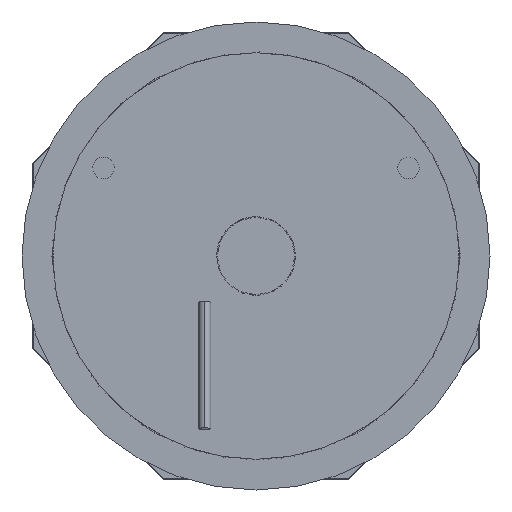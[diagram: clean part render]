
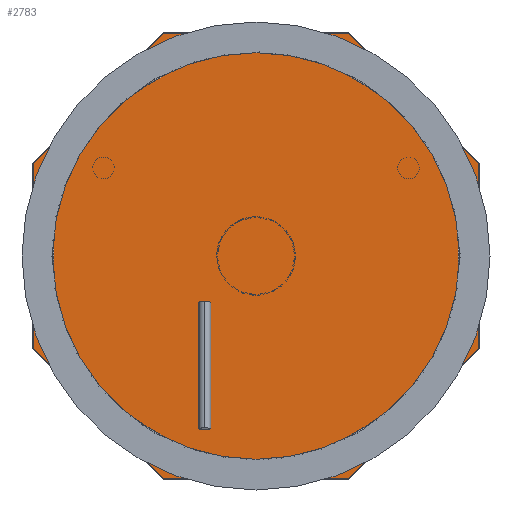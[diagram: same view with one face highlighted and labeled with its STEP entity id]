
A CAD part, front view. The second image highlights one B-rep face of the part: STEP entity #2783.
In plain terms, the highlighted planar face has unit normal (0, -1, 0).
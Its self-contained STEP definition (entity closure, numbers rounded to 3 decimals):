
#2174=DIRECTION('',(0.707,0.,-0.707));
#2175=VECTOR('',#2174,359.952);
#2176=CARTESIAN_POINT('',(-434.5,70.,-179.976));
#2177=LINE('',#2176,#2175);
#2182=DIRECTION('',(0.,0.,-1.));
#2183=VECTOR('',#2182,359.952);
#2184=CARTESIAN_POINT('',(-434.5,70.,179.976));
#2185=LINE('',#2184,#2183);
#2190=DIRECTION('',(-0.707,0.,-0.707));
#2191=VECTOR('',#2190,359.952);
#2192=CARTESIAN_POINT('',(-179.976,70.,434.5));
#2193=LINE('',#2192,#2191);
#2198=DIRECTION('',(-1.,0.,0.));
#2199=VECTOR('',#2198,359.952);
#2200=CARTESIAN_POINT('',(179.976,70.,434.5));
#2201=LINE('',#2200,#2199);
#2206=DIRECTION('',(-0.707,0.,0.707));
#2207=VECTOR('',#2206,359.952);
#2208=CARTESIAN_POINT('',(434.5,70.,179.976));
#2209=LINE('',#2208,#2207);
#2214=DIRECTION('',(0.,0.,1.));
#2215=VECTOR('',#2214,359.952);
#2216=CARTESIAN_POINT('',(434.5,70.,-179.976));
#2217=LINE('',#2216,#2215);
#2222=DIRECTION('',(0.707,0.,0.707));
#2223=VECTOR('',#2222,359.952);
#2224=CARTESIAN_POINT('',(179.976,70.,-434.5));
#2225=LINE('',#2224,#2223);
#2230=DIRECTION('',(1.,0.,0.));
#2231=VECTOR('',#2230,359.952);
#2232=CARTESIAN_POINT('',(-179.976,70.,-434.5));
#2233=LINE('',#2232,#2231);
#2469=CARTESIAN_POINT('',(-434.5,70.,-179.976));
#2470=CARTESIAN_POINT('',(-179.976,70.,-434.5));
#2471=VERTEX_POINT('',#2469);
#2472=VERTEX_POINT('',#2470);
#2473=CARTESIAN_POINT('',(179.976,70.,-434.5));
#2474=VERTEX_POINT('',#2473);
#2475=CARTESIAN_POINT('',(434.5,70.,-179.976));
#2476=VERTEX_POINT('',#2475);
#2477=CARTESIAN_POINT('',(434.5,70.,179.976));
#2478=VERTEX_POINT('',#2477);
#2479=CARTESIAN_POINT('',(179.976,70.,434.5));
#2480=VERTEX_POINT('',#2479);
#2481=CARTESIAN_POINT('',(-179.976,70.,434.5));
#2482=VERTEX_POINT('',#2481);
#2483=CARTESIAN_POINT('',(-434.5,70.,179.976));
#2484=VERTEX_POINT('',#2483);
#2761=CARTESIAN_POINT('',(0.,70.,0.));
#2762=DIRECTION('',(0.,1.,0.));
#2763=DIRECTION('',(1.,0.,0.));
#2764=AXIS2_PLACEMENT_3D('',#2761,#2762,#2763);
#2765=PLANE('',#2764);
#2766=ORIENTED_EDGE('',*,*,#2751,.F.);
#2768=ORIENTED_EDGE('',*,*,#2767,.F.);
#2770=ORIENTED_EDGE('',*,*,#2769,.F.);
#2772=ORIENTED_EDGE('',*,*,#2771,.F.);
#2774=ORIENTED_EDGE('',*,*,#2773,.F.);
#2776=ORIENTED_EDGE('',*,*,#2775,.F.);
#2778=ORIENTED_EDGE('',*,*,#2777,.F.);
#2780=ORIENTED_EDGE('',*,*,#2779,.F.);
#2781=EDGE_LOOP('',(#2766,#2768,#2770,#2772,#2774,#2776,#2778,#2780));
#2782=FACE_OUTER_BOUND('',#2781,.F.);
#2751=EDGE_CURVE('',#2471,#2472,#2177,.T.);
#2767=EDGE_CURVE('',#2484,#2471,#2185,.T.);
#2769=EDGE_CURVE('',#2482,#2484,#2193,.T.);
#2771=EDGE_CURVE('',#2480,#2482,#2201,.T.);
#2773=EDGE_CURVE('',#2478,#2480,#2209,.T.);
#2775=EDGE_CURVE('',#2476,#2478,#2217,.T.);
#2777=EDGE_CURVE('',#2474,#2476,#2225,.T.);
#2779=EDGE_CURVE('',#2472,#2474,#2233,.T.);
#2783=ADVANCED_FACE('',(#2782),#2765,.F.);
